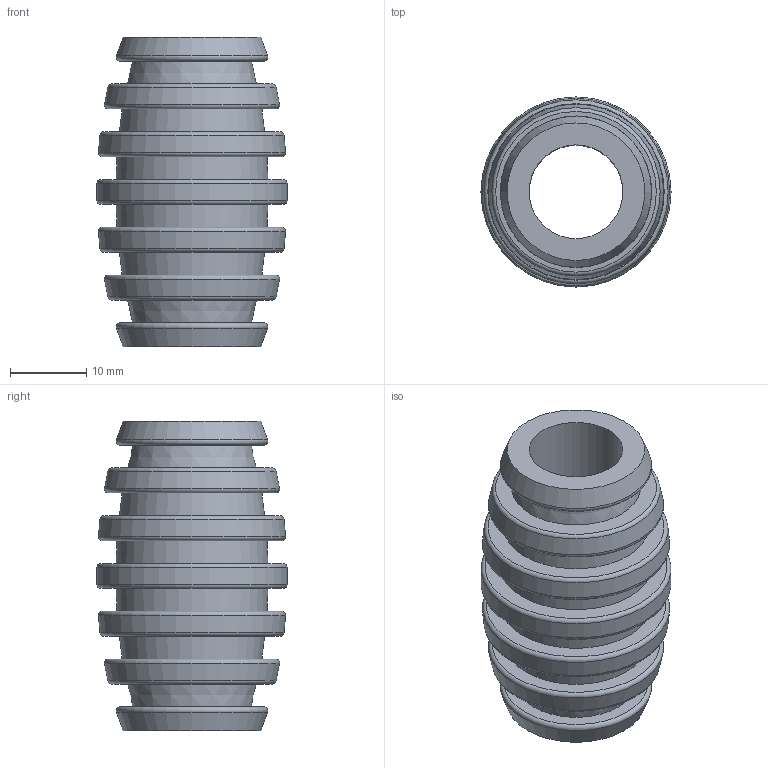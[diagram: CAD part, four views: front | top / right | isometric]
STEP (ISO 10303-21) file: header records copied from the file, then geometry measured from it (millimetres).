
FILE_DESCRIPTION(/* description */ (''),/* implementation_level */ '2;1');
FILE_NAME(/* name */ 'shift-peg-v2-fillet-0.5mm.step',/* time_stamp */ '2025-12-14T08:29:52+01:00',/* author */ (''),/* organization */ (''),/* preprocessor_version */ 'ST-DEVELOPER v20.1',/* originating_system */ 'Autodesk Translation Framework v14.21.0.0',/* authorisation */ '');
FILE_SCHEMA (('AUTOMOTIVE_DESIGN { 1 0 10303 214 3 1 1 }'));
Length unit declared in the file: millimetre
Products named in the file (2): 2025-12-01-16-11-51-508; 2025-12-01-18-04-36-472
Assembly tree (1 placements, depth 2):
  2025-12-01-16-11-51-508
    2025-12-01-18-04-36-472
Bounding box: 24.86 x 24.86 x 40.5 mm (x, y, z)
Volume: 8845.4 mm3; surface area: 6179 mm2
Topology: 1 solids, 1 shells, 40 faces, 72 edges, 46 vertices
Faces by surface type: plane 14, torus 12, cone 12, cylinder 2
Full cylindrical faces by diameter (mm): 12.25 x1, 24.86 x1
Entity records: 1070 total; most frequent: DIRECTION 216, CARTESIAN_POINT 161, ORIENTED_EDGE 144, AXIS2_PLACEMENT_3D 101, EDGE_CURVE 72, CIRCLE 58, EDGE_LOOP 54, VERTEX_POINT 46
